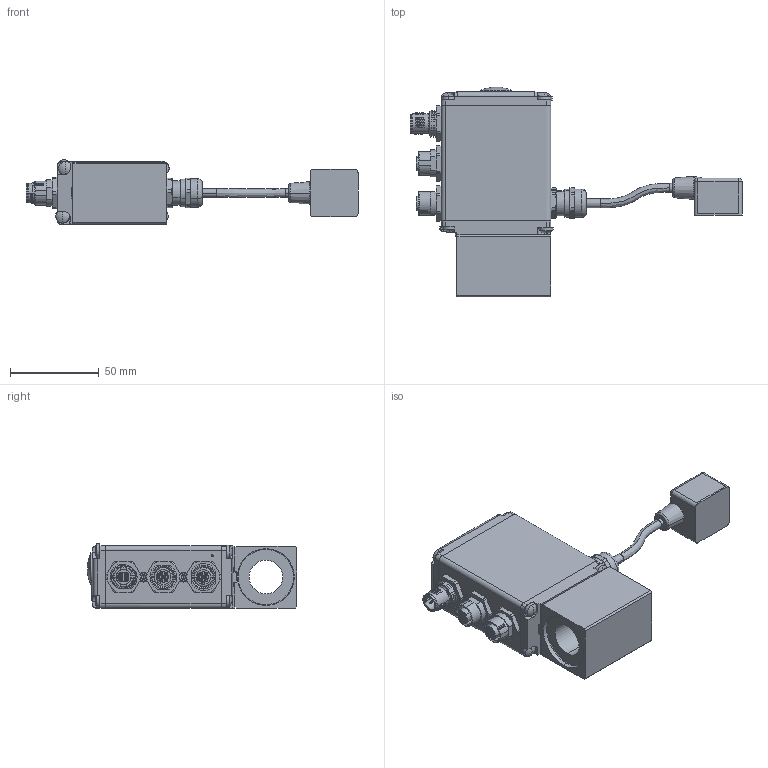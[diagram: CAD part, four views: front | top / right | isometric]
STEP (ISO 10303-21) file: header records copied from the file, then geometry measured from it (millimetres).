
FILE_DESCRIPTION (( 'STEP AP214' ), '1' );
FILE_NAME ('ME35_19x50-...P.R.STEP', '2014-04-03T08:41:46', ( '' ), ( '' ), 'SwSTEP 2.0', 'SolidWorks 2012', '' );
FILE_SCHEMA (( 'AUTOMOTIVE_DESIGN' ));
Length unit declared in the file: millimetre
Products named in the file (1): ME35_19x50-...P.R
Bounding box: 187.3 x 118.39 x 36.48 mm (x, y, z)
Volume: 158960.7 mm3; surface area: 59437.2 mm2
Topology: 4 solids, 4 shells, 2881 faces, 7949 edges, 5158 vertices
Faces by surface type: plane 1564, cylinder 801, torus 217, cone 194, bspline 76, sphere 29
Entity records: 102197 total; most frequent: CARTESIAN_POINT 24105, ORIENTED_EDGE 15854, DIRECTION 14208, EDGE_CURVE 7927, VERTEX_POINT 5158, VECTOR 5046, LINE 5046, AXIS2_PLACEMENT_3D 4581
